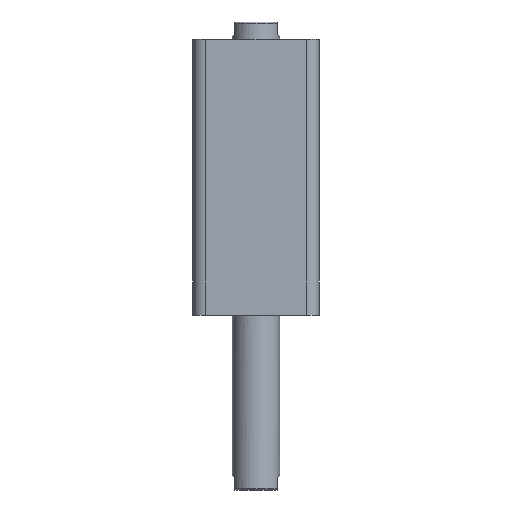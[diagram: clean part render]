
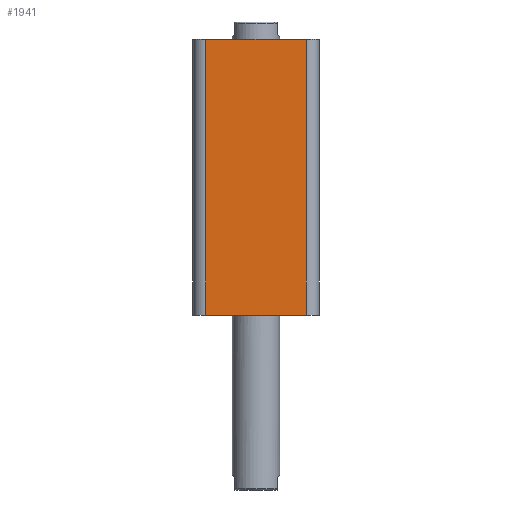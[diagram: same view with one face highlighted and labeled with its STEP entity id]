
A CAD part, front view. The second image highlights one B-rep face of the part: STEP entity #1941.
In plain terms, the highlighted planar face has unit normal (0, -1, 0).
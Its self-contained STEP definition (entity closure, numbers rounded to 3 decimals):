
#253 = EDGE_CURVE ( 'NONE', #2429, #2438, #2854, .T. ) ;
#254 = EDGE_CURVE ( 'NONE', #2429, #2439, #2856, .T. ) ;
#255 = EDGE_CURVE ( 'NONE', #2439, #2440, #2848, .T. ) ;
#256 = EDGE_CURVE ( 'NONE', #2440, #2438, #2860, .T. ) ;
#848 = CARTESIAN_POINT ( 'NONE',  ( -40., -40., 0. ) ) ;
#858 = CARTESIAN_POINT ( 'NONE',  ( -40., -40., 175. ) ) ;
#859 = DIRECTION ( 'NONE',  ( 1., 0., 0. ) ) ;
#860 = CARTESIAN_POINT ( 'NONE',  ( -32., -40., 175. ) ) ;
#861 = DIRECTION ( 'NONE',  ( 0., 0., -1. ) ) ;
#862 = DIRECTION ( 'NONE',  ( 1., 0., 0. ) ) ;
#863 = CARTESIAN_POINT ( 'NONE',  ( 32., -40., 175. ) ) ;
#864 = DIRECTION ( 'NONE',  ( 0., 0., 1. ) ) ;
#943 = AXIS2_PLACEMENT_3D ( 'NONE', #1448, #1455, #1456 ) ;
#1448 = CARTESIAN_POINT ( 'NONE',  ( -40., -40., 175. ) ) ;
#1454 = PLANE ( 'NONE',  #943 ) ;
#1455 = DIRECTION ( 'NONE',  ( 0., 1., 0. ) ) ;
#1456 = DIRECTION ( 'NONE',  ( 0., 0., 1. ) ) ;
#1723 = ORIENTED_EDGE ( 'NONE', *, *, #253, .F. ) ;
#1759 = ORIENTED_EDGE ( 'NONE', *, *, #254, .T. ) ;
#1941 = ADVANCED_FACE ( 'NONE', ( #3016 ), #1454, .F. ) ;
#2172 = CARTESIAN_POINT ( 'NONE',  ( -32., -40., 175. ) ) ;
#2181 = CARTESIAN_POINT ( 'NONE',  ( 32., -40., 175. ) ) ;
#2182 = CARTESIAN_POINT ( 'NONE',  ( -32., -40., 0. ) ) ;
#2183 = CARTESIAN_POINT ( 'NONE',  ( 32., -40., 0. ) ) ;
#2362 = EDGE_LOOP ( 'NONE', ( #1723, #1759, #2457, #2456 ) ) ;
#2429 = VERTEX_POINT ( 'NONE', #2172 ) ;
#2438 = VERTEX_POINT ( 'NONE', #2181 ) ;
#2439 = VERTEX_POINT ( 'NONE', #2182 ) ;
#2440 = VERTEX_POINT ( 'NONE', #2183 ) ;
#2456 = ORIENTED_EDGE ( 'NONE', *, *, #256, .T. ) ;
#2457 = ORIENTED_EDGE ( 'NONE', *, *, #255, .T. ) ;
#2848 = LINE ( 'NONE', #848, #2861 ) ;
#2854 = LINE ( 'NONE', #858, #2857 ) ;
#2856 = LINE ( 'NONE', #860, #2859 ) ;
#2857 = VECTOR ( 'NONE', #859, 1000. ) ;
#2859 = VECTOR ( 'NONE', #861, 1000. ) ;
#2860 = LINE ( 'NONE', #863, #2863 ) ;
#2861 = VECTOR ( 'NONE', #862, 1000. ) ;
#2863 = VECTOR ( 'NONE', #864, 1000. ) ;
#3016 = FACE_OUTER_BOUND ( 'NONE', #2362, .T. ) ;
